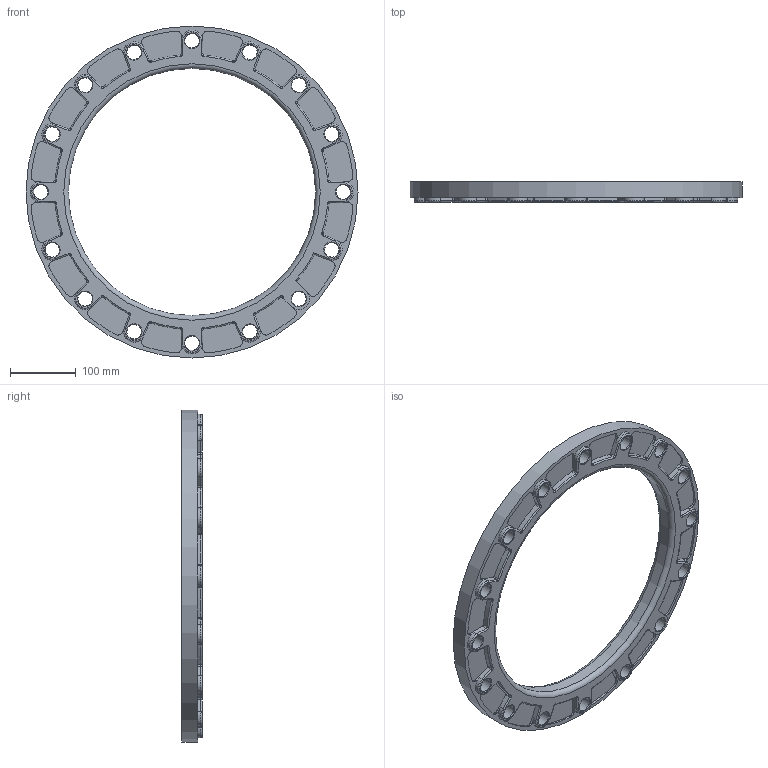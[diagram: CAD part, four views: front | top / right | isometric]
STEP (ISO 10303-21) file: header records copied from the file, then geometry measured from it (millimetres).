
FILE_DESCRIPTION(/* description */ ('Unknown'),/* implementation_level */ '2;1');
FILE_NAME(/* name */ 'FA355B',/* time_stamp */ '2022-07-21T15:35:39+02:00',/* author */ ('Unknown'),/* organization */ ('Unknown'),/* preprocessor_version */ 'ST-DEVELOPER v18.102',/* originating_system */ 'Solid Edge',/* authorisation */ 'Unknown');
FILE_SCHEMA (('AUTOMOTIVE_DESIGN {1 0 10303 214 3 1 1}'));
Length unit declared in the file: millimetre
Products named in the file (1): FA355B
Bounding box: 505 x 31 x 505 mm (x, y, z)
Volume: 2131493.5 mm3; surface area: 289575.2 mm2
Topology: 1 solids, 1 shells, 304 faces, 827 edges, 526 vertices
Faces by surface type: cylinder 158, torus 63, plane 51, cone 32
Full cylindrical faces by diameter (mm): 22 x16, 376 x1, 505 x1
Entity records: 9136 total; most frequent: DIRECTION 1774, CARTESIAN_POINT 1523, ORIENTED_EDGE 1454, AXIS2_PLACEMENT_3D 745, EDGE_CURVE 727, VERTEX_POINT 478, CIRCLE 440, EDGE_LOOP 391
